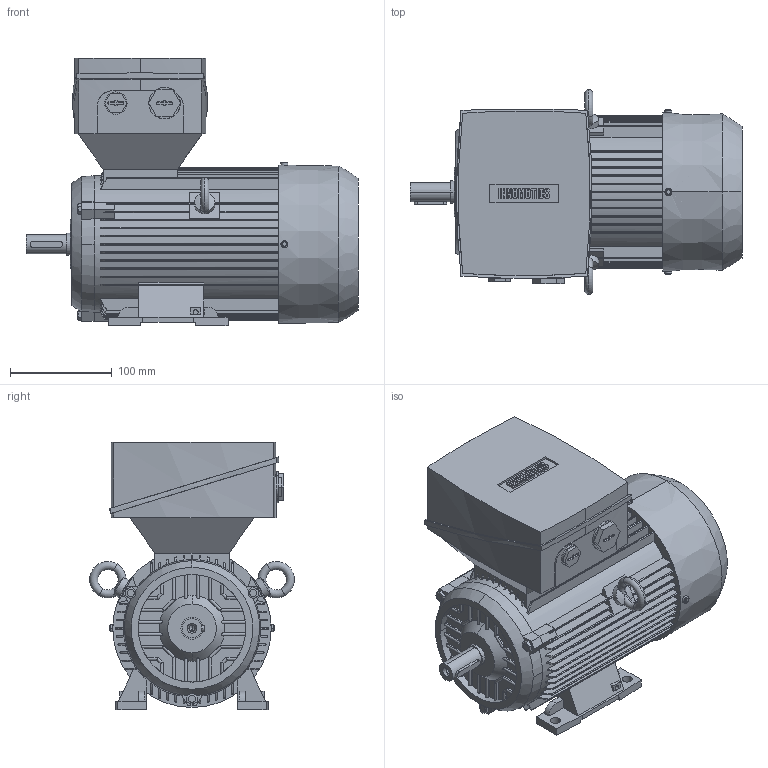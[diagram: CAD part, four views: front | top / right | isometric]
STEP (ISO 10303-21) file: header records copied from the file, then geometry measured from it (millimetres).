
FILE_DESCRIPTION(('STEP AP214'),'1');
FILE_NAME('cctmp_2E952BC2-C69D-497A-8D56-E070A3379BA4_2026_04_16_09_17_01_0435_16764..stp','2026-04-16T07:17:01',('KiM GmbH'),('CADClick - www.CADClick.com'),'Spatial InterOp 3D',' ','unknown authorization');
FILE_SCHEMA(('AUTOMOTIVE_DESIGN'));
Length unit declared in the file: millimetre
Products named in the file (1): 2026_04_16_09_17_01_0434
Bounding box: 327 x 201.67 x 263 mm (x, y, z)
Volume: 6452988.2 mm3; surface area: 397711.8 mm2
Topology: 1 solids, 1 shells, 978 faces, 2804 edges, 1822 vertices
Faces by surface type: plane 650, cylinder 239, torus 58, cone 27, sphere 4
Entity records: 42695 total; most frequent: CARTESIAN_POINT 9365, ORIENTED_EDGE 5524, DIRECTION 5154, EDGE_CURVE 2762, VERTEX_POINT 1822, LINE 1770, VECTOR 1770, AXIS2_PLACEMENT_3D 1692
